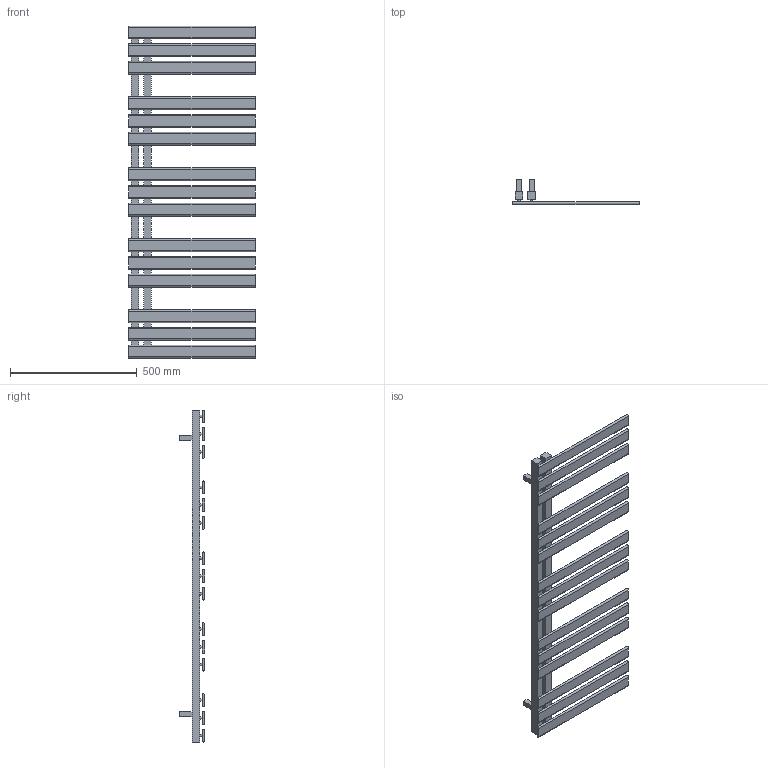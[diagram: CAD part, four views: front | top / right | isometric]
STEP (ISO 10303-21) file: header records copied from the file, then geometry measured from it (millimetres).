
FILE_DESCRIPTION( ( 'Unknown' ), '1' );
FILE_NAME( 'D:/Alplast sp. j/Witryna zespoBu - Projekty/Archiwum/Grzejniki Archiwum/Projekty/DESIGN PROGRAM/BRUNO KOLOR/BRUNO KOLOR 3.stp', 'Unknown', ( 'Unknown' ), ( 'Unknown' ), 'PSStep 10.1', 'Unknown', ' ' );
FILE_SCHEMA( ( 'AUTOMOTIVE_DESIGN { 1 0 10303 214 1 1 1 1 }' ) );
Length unit declared in the file: millimetre
Products named in the file (1): 1
Bounding box: 500 x 100 x 1310 mm (x, y, z)
Volume: 6050610.6 mm3; surface area: 1188688 mm2
Topology: 1 solids, 1 shells, 152 faces, 372 edges, 258 vertices
Faces by surface type: plane 92, cylinder 60
Full cylindrical faces by diameter (mm): 10 x30
Entity records: 5404 total; most frequent: DIRECTION 738, CARTESIAN_POINT 693, ORIENTED_EDGE 624, EDGE_CURVE 312, AXIS2_PLACEMENT_3D 273, EDGE_LOOP 246, VERTEX_POINT 228, LINE 192
